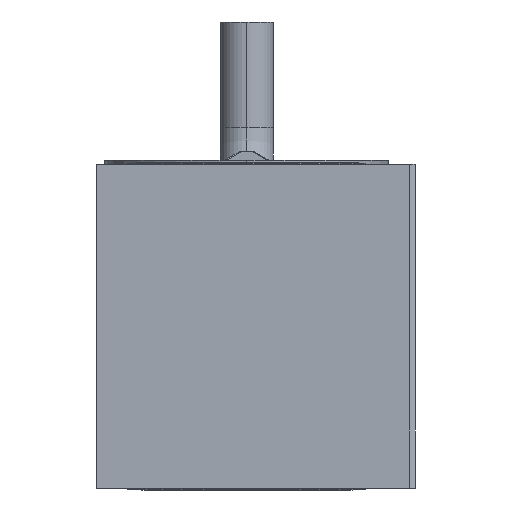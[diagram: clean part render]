
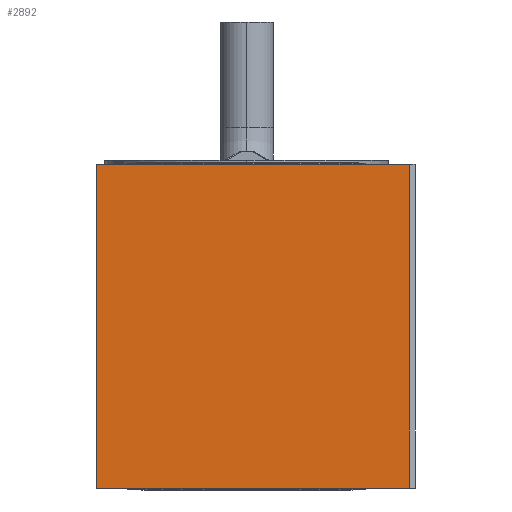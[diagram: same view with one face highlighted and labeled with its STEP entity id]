
A CAD part, left-side view. The second image highlights one B-rep face of the part: STEP entity #2892.
In plain terms, the highlighted planar face has unit normal (-1, 0, 0).
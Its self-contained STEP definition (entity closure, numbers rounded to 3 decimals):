
#316=DIRECTION('',(0.,-1.,0.));
#317=VECTOR('',#316,29.72);
#318=CARTESIAN_POINT('',(-66.675,15.115,-15.365));
#319=LINE('',#318,#317);
#370=DIRECTION('',(0.,0.,1.));
#371=VECTOR('',#370,30.73);
#372=CARTESIAN_POINT('',(-66.675,-14.605,-15.365));
#373=LINE('',#372,#371);
#374=DIRECTION('',(0.,-1.,0.));
#375=VECTOR('',#374,29.72);
#376=CARTESIAN_POINT('',(-66.675,15.115,15.365));
#377=LINE('',#376,#375);
#378=DIRECTION('',(0.,0.,-1.));
#379=VECTOR('',#378,30.73);
#380=CARTESIAN_POINT('',(-66.675,15.115,15.365));
#381=LINE('',#380,#379);
#1994=CARTESIAN_POINT('',(-66.675,15.115,15.365));
#1995=CARTESIAN_POINT('',(-66.675,15.115,-15.365));
#1996=VERTEX_POINT('',#1994);
#1997=VERTEX_POINT('',#1995);
#2195=CARTESIAN_POINT('',(-66.675,-14.605,-15.365));
#2196=CARTESIAN_POINT('',(-66.675,-14.605,15.365));
#2197=VERTEX_POINT('',#2195);
#2198=VERTEX_POINT('',#2196);
#2880=CARTESIAN_POINT('',(-66.675,-15.115,-15.365));
#2881=DIRECTION('',(-1.,0.,0.));
#2882=DIRECTION('',(0.,0.,1.));
#2883=AXIS2_PLACEMENT_3D('',#2880,#2881,#2882);
#2884=PLANE('',#2883);
#2885=ORIENTED_EDGE('',*,*,#2836,.F.);
#2886=ORIENTED_EDGE('',*,*,#2807,.F.);
#2888=ORIENTED_EDGE('',*,*,#2887,.F.);
#2889=ORIENTED_EDGE('',*,*,#2725,.T.);
#2890=EDGE_LOOP('',(#2885,#2886,#2888,#2889));
#2891=FACE_OUTER_BOUND('',#2890,.F.);
#2892=ADVANCED_FACE('',(#2891),#2884,.T.);
#2725=EDGE_CURVE('',#1996,#2198,#377,.T.);
#2807=EDGE_CURVE('',#1997,#2197,#319,.T.);
#2836=EDGE_CURVE('',#2197,#2198,#373,.T.);
#2887=EDGE_CURVE('',#1996,#1997,#381,.T.);
